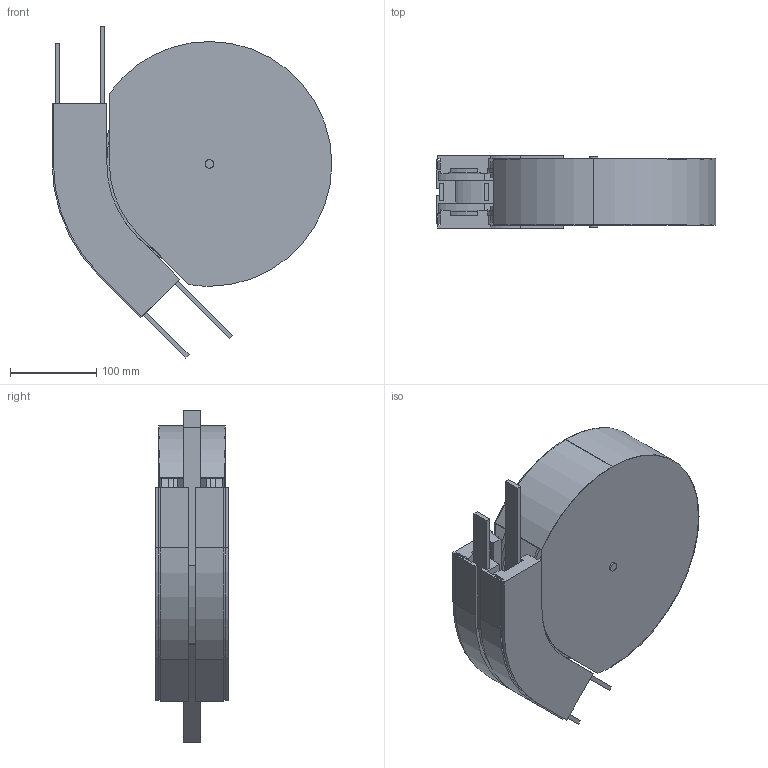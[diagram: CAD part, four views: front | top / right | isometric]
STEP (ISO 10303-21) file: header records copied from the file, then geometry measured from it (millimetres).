
FILE_DESCRIPTION (( 'STEP AP214' ), '1' );
FILE_NAME ('927788 CS65SL Draaischijfbocht 45 R150.STEP', '2017-12-21T08:29:03', ( '' ), ( '' ), 'SwSTEP 2.0', 'SolidWorks 2017', '' );
FILE_SCHEMA (( 'AUTOMOTIVE_DESIGN' ));
Length unit declared in the file: millimetre
Products named in the file (1): 927788 CS65SL Draaischijfbocht 45 R150
Bounding box: 324.5 x 84 x 385.21 mm (x, y, z)
Volume: 2558376.1 mm3; surface area: 718550.8 mm2
Topology: 3 solids, 3 shells, 186 faces, 496 edges, 324 vertices
Faces by surface type: plane 124, cylinder 58, cone 4
Entity records: 5820 total; most frequent: CARTESIAN_POINT 1007, ORIENTED_EDGE 992, DIRECTION 990, EDGE_CURVE 496, LINE 376, VECTOR 376, VERTEX_POINT 324, AXIS2_PLACEMENT_3D 307
